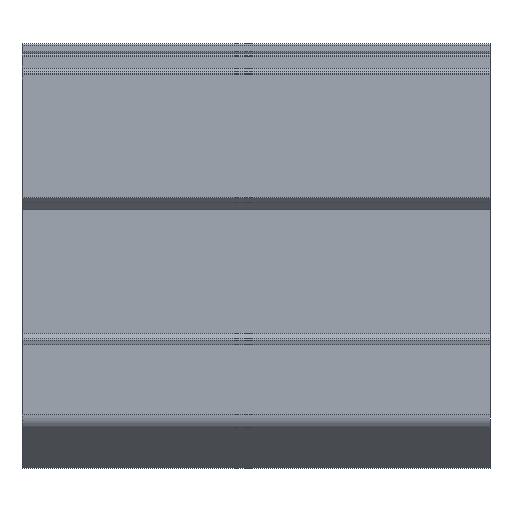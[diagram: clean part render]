
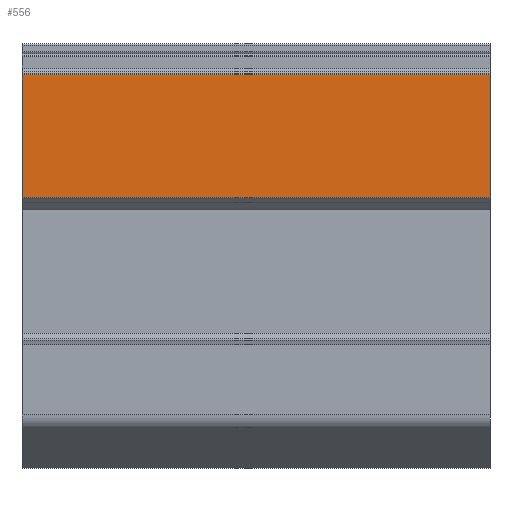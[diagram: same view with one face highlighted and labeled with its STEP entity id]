
A CAD part, front view. The second image highlights one B-rep face of the part: STEP entity #556.
In plain terms, the highlighted planar face has unit normal (0, -1, 0).
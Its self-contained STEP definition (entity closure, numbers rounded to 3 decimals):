
#5 = VERTEX_POINT ( 'NONE', #243 ) ;
#41 = CARTESIAN_POINT ( 'NONE',  ( 54., -48.25, 43.226 ) ) ;
#167 = EDGE_CURVE ( 'NONE', #900, #2948, #2967, .T. ) ;
#174 = VERTEX_POINT ( 'NONE', #2641 ) ;
#243 = CARTESIAN_POINT ( 'NONE',  ( 54., -48.25, 14.85 ) ) ;
#311 = ORIENTED_EDGE ( 'NONE', *, *, #167, .T. ) ;
#352 = LINE ( 'NONE', #2325, #2866 ) ;
#556 = ADVANCED_FACE ( 'NONE', ( #809 ), #2521, .F. ) ;
#725 = CARTESIAN_POINT ( 'NONE',  ( 54., -48.25, 0. ) ) ;
#809 = FACE_OUTER_BOUND ( 'NONE', #1173, .T. ) ;
#900 = VERTEX_POINT ( 'NONE', #1658 ) ;
#976 = DIRECTION ( 'NONE',  ( 0., 0., 1. ) ) ;
#1075 = AXIS2_PLACEMENT_3D ( 'NONE', #725, #1981, #976 ) ;
#1115 = ORIENTED_EDGE ( 'NONE', *, *, #2004, .T. ) ;
#1173 = EDGE_LOOP ( 'NONE', ( #1115, #2095, #2402, #311 ) ) ;
#1283 = DIRECTION ( 'NONE',  ( 0., 0., -1. ) ) ;
#1353 = CARTESIAN_POINT ( 'NONE',  ( -54., -48.25, 43.226 ) ) ;
#1501 = CARTESIAN_POINT ( 'NONE',  ( -54., -48.25, 0. ) ) ;
#1658 = CARTESIAN_POINT ( 'NONE',  ( 54., -48.25, 43.226 ) ) ;
#1981 = DIRECTION ( 'NONE',  ( 0., 1., 0. ) ) ;
#2004 = EDGE_CURVE ( 'NONE', #2948, #174, #3284, .T. ) ;
#2095 = ORIENTED_EDGE ( 'NONE', *, *, #3186, .F. ) ;
#2325 = CARTESIAN_POINT ( 'NONE',  ( 54., -48.25, 14.85 ) ) ;
#2364 = DIRECTION ( 'NONE',  ( -1., 0., 0. ) ) ;
#2380 = LINE ( 'NONE', #3160, #2982 ) ;
#2402 = ORIENTED_EDGE ( 'NONE', *, *, #3359, .F. ) ;
#2501 = DIRECTION ( 'NONE',  ( 0., 0., -1. ) ) ;
#2519 = VECTOR ( 'NONE', #1283, 1000. ) ;
#2521 = PLANE ( 'NONE',  #1075 ) ;
#2641 = CARTESIAN_POINT ( 'NONE',  ( -54., -48.25, 14.85 ) ) ;
#2866 = VECTOR ( 'NONE', #2364, 1000. ) ;
#2948 = VERTEX_POINT ( 'NONE', #1353 ) ;
#2967 = LINE ( 'NONE', #41, #3211 ) ;
#2982 = VECTOR ( 'NONE', #2501, 1000. ) ;
#3160 = CARTESIAN_POINT ( 'NONE',  ( 54., -48.25, 0. ) ) ;
#3186 = EDGE_CURVE ( 'NONE', #5, #174, #352, .T. ) ;
#3199 = DIRECTION ( 'NONE',  ( -1., 0., 0. ) ) ;
#3211 = VECTOR ( 'NONE', #3199, 1000. ) ;
#3284 = LINE ( 'NONE', #1501, #2519 ) ;
#3359 = EDGE_CURVE ( 'NONE', #900, #5, #2380, .T. ) ;
